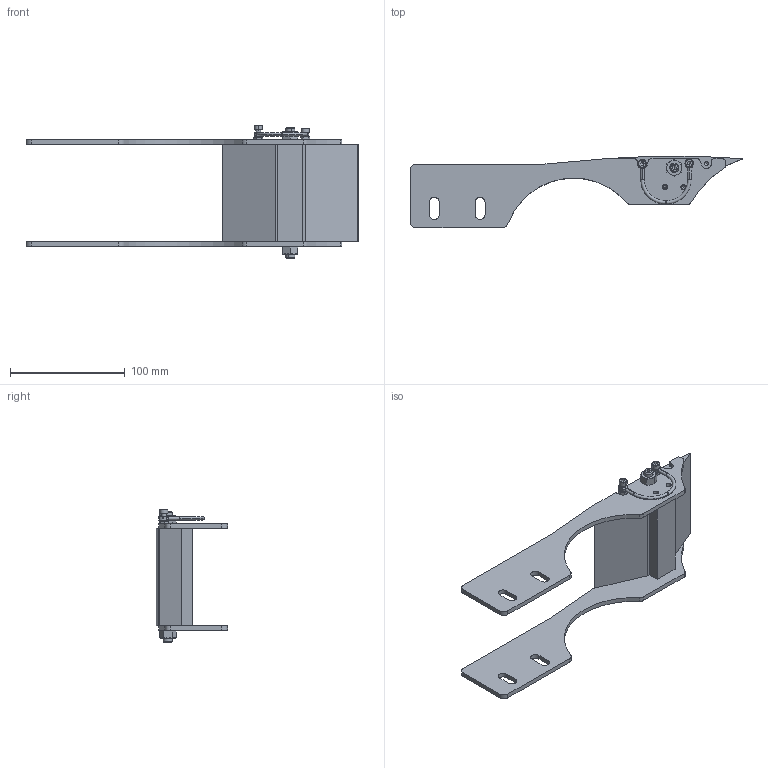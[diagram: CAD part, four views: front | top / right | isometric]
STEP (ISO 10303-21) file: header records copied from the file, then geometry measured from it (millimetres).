
FILE_DESCRIPTION (( 'STEP AP214' ), '1' );
FILE_NAME ('FMTB A85P.step', '2017-04-07T11:09:00', ( '' ), ( '' ), 'SwSTEP 2.0', 'SolidWorks 2016', '' );
FILE_SCHEMA (( 'AUTOMOTIVE_DESIGN' ));
Length unit declared in the file: millimetre
Products named in the file (1): FMTB A85P
Bounding box: 289.89 x 62.21 x 116.77 mm (x, y, z)
Surface area: 80236.8 mm2 (no closed solid volume)
Topology: 0 solids, 16 shells, 453 faces, 1113 edges, 670 vertices
Faces by surface type: plane 180, cylinder 133, cone 124, bspline 8, torus 8
Entity records: 18766 total; most frequent: CARTESIAN_POINT 3061, DIRECTION 2257, ORIENTED_EDGE 2150, EDGE_CURVE 1077, AXIS2_PLACEMENT_3D 874, VERTEX_POINT 670, VECTOR 509, LINE 509
